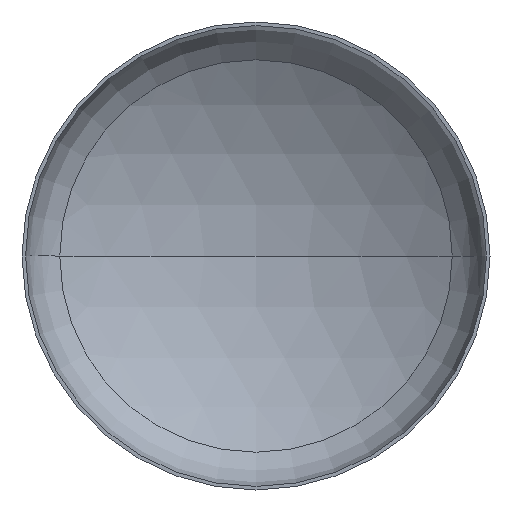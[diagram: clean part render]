
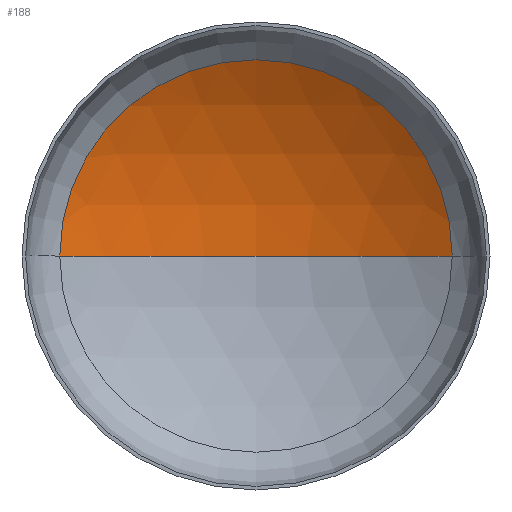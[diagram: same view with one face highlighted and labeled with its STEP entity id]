
A CAD part, front view. The second image highlights one B-rep face of the part: STEP entity #188.
In plain terms, the highlighted spherical face has radius 4400 mm.
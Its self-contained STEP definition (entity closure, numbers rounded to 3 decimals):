
#14 = DIRECTION ( 'NONE',  ( 0., 0., 1. ) ) ;
#19 = DIRECTION ( 'NONE',  ( -1., 0., 0. ) ) ;
#36 = ORIENTED_EDGE ( 'NONE', *, *, #306, .T. ) ;
#51 = CARTESIAN_POINT ( 'NONE',  ( -2305.823, 849.676, 0. ) ) ;
#57 = FACE_OUTER_BOUND ( 'NONE', #320, .T. ) ;
#74 = DIRECTION ( 'NONE',  ( -1., 0., 0. ) ) ;
#86 = DIRECTION ( 'NONE',  ( 0., -1., 0. ) ) ;
#115 = CARTESIAN_POINT ( 'NONE',  ( 2305.823, 849.676, 0. ) ) ;
#125 = ORIENTED_EDGE ( 'NONE', *, *, #286, .F. ) ;
#181 = DIRECTION ( 'NONE',  ( 0., 0., -1. ) ) ;
#188 = ADVANCED_FACE ( 'NONE', ( #57 ), #379, .F. ) ;
#192 = AXIS2_PLACEMENT_3D ( 'NONE', #217, #14, #246 ) ;
#196 = CIRCLE ( 'NONE', #250, 4400. ) ;
#205 = VERTEX_POINT ( 'NONE', #210 ) ;
#210 = CARTESIAN_POINT ( 'NONE',  ( 0., 1502.252, 0. ) ) ;
#217 = CARTESIAN_POINT ( 'NONE',  ( 0., -2897.748, 0. ) ) ;
#218 = DIRECTION ( 'NONE',  ( 0., 0., -1. ) ) ;
#230 = AXIS2_PLACEMENT_3D ( 'NONE', #278, #86, #308 ) ;
#246 = DIRECTION ( 'NONE',  ( 1., 0., 0. ) ) ;
#250 = AXIS2_PLACEMENT_3D ( 'NONE', #392, #218, #19 ) ;
#253 = VERTEX_POINT ( 'NONE', #115 ) ;
#268 = CARTESIAN_POINT ( 'NONE',  ( 0., -2897.748, 0. ) ) ;
#274 = CIRCLE ( 'NONE', #192, 4400. ) ;
#278 = CARTESIAN_POINT ( 'NONE',  ( 0., 849.676, 0. ) ) ;
#286 = EDGE_CURVE ( 'NONE', #205, #303, #274, .T. ) ;
#303 = VERTEX_POINT ( 'NONE', #51 ) ;
#306 = EDGE_CURVE ( 'NONE', #205, #253, #196, .T. ) ;
#308 = DIRECTION ( 'NONE',  ( 1., 0., 0. ) ) ;
#320 = EDGE_LOOP ( 'NONE', ( #125, #36, #324 ) ) ;
#322 = EDGE_CURVE ( 'NONE', #253, #303, #350, .T. ) ;
#324 = ORIENTED_EDGE ( 'NONE', *, *, #322, .T. ) ;
#350 = CIRCLE ( 'NONE', #230, 2305.823 ) ;
#379 = SPHERICAL_SURFACE ( 'NONE', #394, 4400. ) ;
#392 = CARTESIAN_POINT ( 'NONE',  ( 0., -2897.748, 0. ) ) ;
#394 = AXIS2_PLACEMENT_3D ( 'NONE', #268, #181, #74 ) ;
